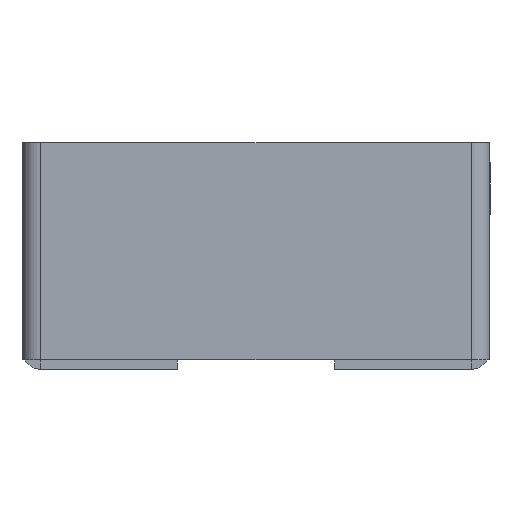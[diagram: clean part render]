
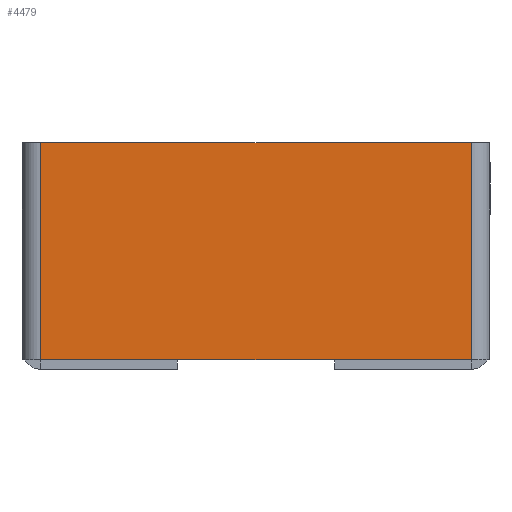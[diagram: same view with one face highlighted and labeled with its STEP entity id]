
A CAD part, front view. The second image highlights one B-rep face of the part: STEP entity #4479.
In plain terms, the highlighted planar face has unit normal (0, -1, 0).
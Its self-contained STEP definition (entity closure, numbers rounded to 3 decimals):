
#60 = PLANE ( 'NONE',  #7073 ) ;
#131 = ORIENTED_EDGE ( 'NONE', *, *, #4662, .F. ) ;
#188 = DIRECTION ( 'NONE',  ( 0., 1., 0. ) ) ;
#222 = VECTOR ( 'NONE', #3601, 1000. ) ;
#361 = CARTESIAN_POINT ( 'NONE',  ( -57.5, -2.5, -58. ) ) ;
#545 = LINE ( 'NONE', #1802, #9067 ) ;
#1086 = CARTESIAN_POINT ( 'NONE',  ( 57.5, -2.5, 0. ) ) ;
#1165 = CARTESIAN_POINT ( 'NONE',  ( -57.5, -2.5, 0. ) ) ;
#1644 = VECTOR ( 'NONE', #6636, 1000. ) ;
#1802 = CARTESIAN_POINT ( 'NONE',  ( 57.5, -2.5, -58. ) ) ;
#1987 = ORIENTED_EDGE ( 'NONE', *, *, #3163, .T. ) ;
#2597 = EDGE_CURVE ( 'NONE', #8536, #7054, #8044, .T. ) ;
#3163 = EDGE_CURVE ( 'NONE', #7378, #7054, #8733, .T. ) ;
#3201 = DIRECTION ( 'NONE',  ( 0., 0., 1. ) ) ;
#3371 = FACE_OUTER_BOUND ( 'NONE', #4328, .T. ) ;
#3601 = DIRECTION ( 'NONE',  ( 0., 0., -1. ) ) ;
#3823 = EDGE_CURVE ( 'NONE', #8536, #7214, #545, .T. ) ;
#4093 = CARTESIAN_POINT ( 'NONE',  ( 57.5, -2.5, -58. ) ) ;
#4328 = EDGE_LOOP ( 'NONE', ( #1987, #6499, #4509, #131 ) ) ;
#4479 = ADVANCED_FACE ( 'NONE', ( #3371 ), #60, .F. ) ;
#4509 = ORIENTED_EDGE ( 'NONE', *, *, #3823, .T. ) ;
#4662 = EDGE_CURVE ( 'NONE', #7378, #7214, #9197, .T. ) ;
#5778 = CARTESIAN_POINT ( 'NONE',  ( -60., -2.5, -58. ) ) ;
#6487 = VECTOR ( 'NONE', #8764, 1000. ) ;
#6499 = ORIENTED_EDGE ( 'NONE', *, *, #2597, .F. ) ;
#6603 = CARTESIAN_POINT ( 'NONE',  ( -60., -2.5, 0. ) ) ;
#6636 = DIRECTION ( 'NONE',  ( -1., 0., 0. ) ) ;
#6756 = CARTESIAN_POINT ( 'NONE',  ( 0., -2.5, 0. ) ) ;
#7054 = VERTEX_POINT ( 'NONE', #361 ) ;
#7073 = AXIS2_PLACEMENT_3D ( 'NONE', #6756, #188, #3201 ) ;
#7214 = VERTEX_POINT ( 'NONE', #1086 ) ;
#7230 = CARTESIAN_POINT ( 'NONE',  ( -57.5, -2.5, 0. ) ) ;
#7378 = VERTEX_POINT ( 'NONE', #7230 ) ;
#7741 = DIRECTION ( 'NONE',  ( 0., 0., 1. ) ) ;
#8044 = LINE ( 'NONE', #5778, #1644 ) ;
#8536 = VERTEX_POINT ( 'NONE', #4093 ) ;
#8733 = LINE ( 'NONE', #1165, #222 ) ;
#8764 = DIRECTION ( 'NONE',  ( 1., 0., 0. ) ) ;
#9067 = VECTOR ( 'NONE', #7741, 1000. ) ;
#9197 = LINE ( 'NONE', #6603, #6487 ) ;
